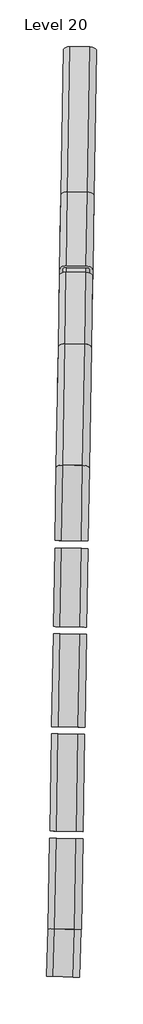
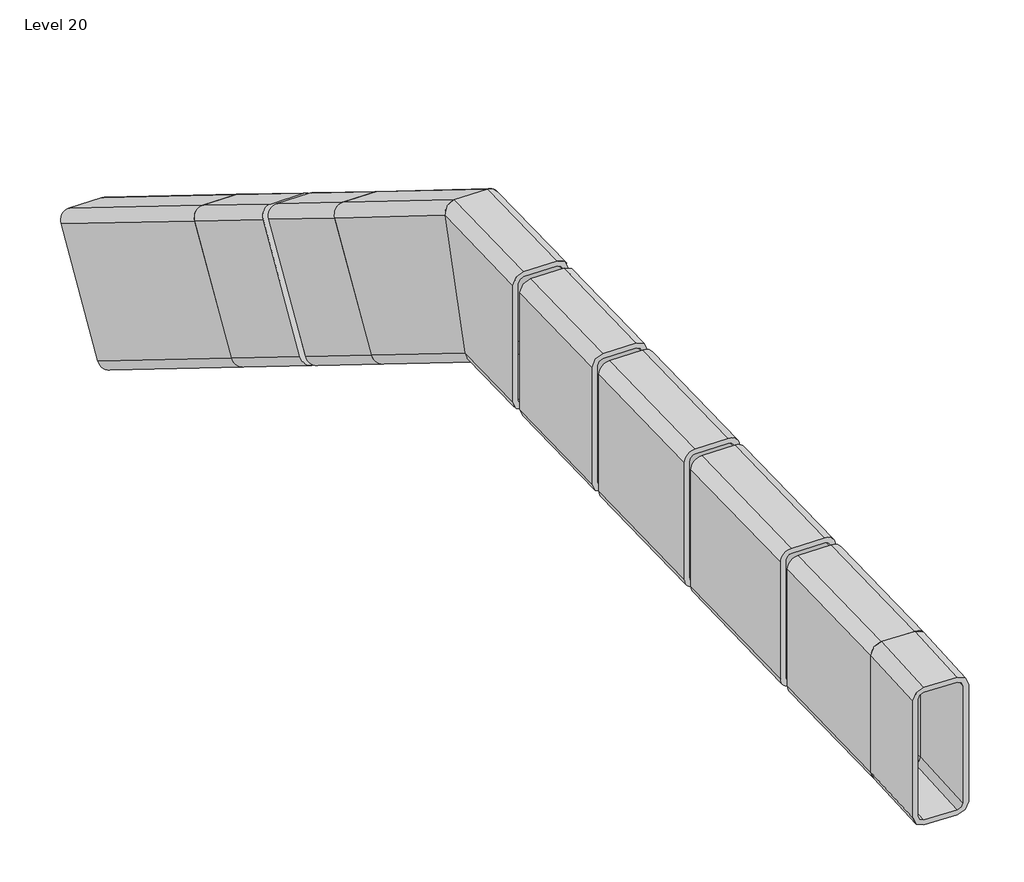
# One storey: 10 beams.
"""IFC4 building model written with IfcOpenShell, lengths in millimetres."""

from ifc_helpers import new_model, si_unit, point, frame, frame_2d, origin, place, context, project, spatial, polyline, circle_curve, ellipse_curve, trimmed, segment, composite_curve, outline, extrude, transform, mapped, element, save
from ifc_brep_helpers import plane_surface, cylinder_surface, revolved_surface, advanced_brep
from components import rectangular_and_square_hollow_sections_90f7eeb5, rectangular_and_square_hollow_sections_e5729320, rectangular_and_square_hollow_sections_3e7aac3e, rectangular_and_square_hollow_sections_6862c1c7, rectangular_and_square_hollow_sections_a73800cf

model = new_model("IFC4")

# Units and contexts
model_context = context("Model", 3, world=origin())
ifc_project = project(units=[si_unit("LENGTHUNIT", "METRE", prefix="MILLI")], contexts=[model_context])

# Site, building, storey
site = spatial("IfcSite", under=ifc_project)
building = spatial("IfcBuilding", under=site)
storey = spatial("IfcBuildingStorey", under=building, Name="Level 20", Elevation=-3564.4344134)

# Beams
placement = place(None, origin())
element("IfcBeam", 1, ObjectType="Rectangular and Square Hollow Sections : TREC160x60x6", at=placement, inside=storey, context=model_context, shape_type="AdvancedBrep", body=[
    advanced_brep(
    [(-698.5878607, -321.6863551, -3496.434413), (-710.5860506, -321.4779355, -3484.434413), (-746.5806203, -320.8526768, -3484.434413), (-758.5788102, -320.6442572, -3496.434413), (-758.5788102, -320.6442572, -3632.434413), (-746.5806203, -320.8526768, -3644.434413), (-710.5860506, -321.4779355, -3644.434413), (-698.5878607, -321.6863551, -3632.434413), (-746.5806203, -320.8526768, -3490.434413), (-710.5860506, -321.4779355, -3490.434413), (-704.5869556, -321.5821453, -3496.434413), (-704.5869556, -321.5821453, -3632.434413), (-710.5860506, -321.4779355, -3638.434413), (-746.5806203, -320.8526768, -3638.434413), (-752.5797153, -320.748467, -3632.434413), (-752.5797153, -320.748467, -3496.434413), (-696.2776033, -188.6906617, -3496.434413), (-708.2158727, -185.032769, -3484.434413), (-744.2104046, -184.4053306, -3484.434413), (-756.2684898, -187.6449309, -3496.434413), (-756.9474459, -226.7307245, -3632.434413), (-745.0091765, -230.3886172, -3644.434413), (-709.0146446, -231.0160557, -3644.434413), (-696.9565594, -227.7764553, -3632.434413), (-744.2403585, -186.1297038, -3490.434413), (-708.2458266, -186.7571423, -3490.434413), (-702.2766919, -188.5860886, -3496.434413), (-702.9556481, -227.6718823, -3632.434413), (-708.9846907, -229.2916824, -3638.434413), (-744.9792226, -228.664244, -3638.434413), (-750.9483573, -226.8352976, -3632.434413), (-750.2694011, -187.749504, -3496.434413)],
    [
        (0, 1, circle_curve(frame((-710.5860506, -321.4779355, -3496.434413), z_axis=(-0.017368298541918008, -0.9998491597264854, 0.0), x_axis=(-0.9998491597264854, 0.017368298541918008, 0.0)), 12.0)),
        (1, 2),
        (2, 3, circle_curve(frame((-746.5806203, -320.8526768, -3496.434413), z_axis=(-0.017368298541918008, -0.9998491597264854, 0.0), x_axis=(-0.9998491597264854, 0.017368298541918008, 0.0)), 12.0)),
        (3, 4),
        (4, 5, circle_curve(frame((-746.5806203, -320.8526768, -3632.434413), z_axis=(-0.017368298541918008, -0.9998491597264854, 0.0), x_axis=(-0.9998491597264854, 0.017368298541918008, 0.0)), 12.0)),
        (5, 6),
        (6, 7, circle_curve(frame((-710.5860506, -321.4779355, -3632.434413), z_axis=(-0.017368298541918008, -0.9998491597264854, 0.0), x_axis=(-0.9998491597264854, 0.017368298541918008, 0.0)), 12.0)),
        (7, 0),
        (8, 9),
        (9, 10, circle_curve(frame((-710.5860506, -321.4779355, -3496.434413), z_axis=(0.017368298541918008, 0.9998491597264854, 0.0), x_axis=(-0.9998491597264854, 0.017368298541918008, 0.0)), 6.0)),
        (10, 11),
        (11, 12, circle_curve(frame((-710.5860506, -321.4779355, -3632.434413), z_axis=(0.017368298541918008, 0.9998491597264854, 0.0), x_axis=(-0.9998491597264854, 0.017368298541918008, 0.0)), 6.0)),
        (12, 13),
        (13, 14, circle_curve(frame((-746.5806203, -320.8526768, -3632.434413), z_axis=(0.017368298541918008, 0.9998491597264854, 0.0), x_axis=(-0.9998491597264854, 0.017368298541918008, 0.0)), 6.0)),
        (14, 15),
        (15, 8, circle_curve(frame((-746.5806203, -320.8526768, -3496.434413), z_axis=(0.017368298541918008, 0.9998491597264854, 0.0), x_axis=(-0.9998491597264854, 0.017368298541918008, 0.0)), 6.0)),
        (0, 16),
        (16, 17, ellipse_curve(frame((-708.2757806, -188.4815155, -3496.434413), z_axis=(-0.016750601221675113, -0.9609389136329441, 0.27625318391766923), x_axis=(-0.00459559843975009, -0.27621503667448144, -0.9610848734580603)), 12.4858897, 12.0)),
        (17, 1),
        (17, 18),
        (18, 2),
        (18, 19, ellipse_curve(frame((-744.2703125, -187.8540771, -3496.434413), z_axis=(-0.016750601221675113, -0.9609389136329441, 0.27625318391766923), x_axis=(-0.00459559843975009, -0.27621503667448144, -0.9610848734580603)), 12.4858897, 12.0)),
        (19, 3),
        (19, 20),
        (20, 4),
        (20, 21, ellipse_curve(frame((-744.9492686, -226.9398707, -3632.434413), z_axis=(-0.016750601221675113, -0.9609389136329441, 0.27625318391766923), x_axis=(-0.00459559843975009, -0.27621503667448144, -0.9610848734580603)), 12.4858897, 12.0)),
        (21, 5),
        (21, 22),
        (22, 6),
        (22, 23, ellipse_curve(frame((-708.9547367, -227.5673092, -3632.434413), z_axis=(-0.016750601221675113, -0.9609389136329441, 0.27625318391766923), x_axis=(-0.00459559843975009, -0.27621503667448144, -0.9610848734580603)), 12.4858897, 12.0)),
        (23, 7),
        (23, 16),
        (8, 24),
        (24, 25),
        (25, 9),
        (25, 26, ellipse_curve(frame((-708.2757806, -188.4815155, -3496.434413), z_axis=(0.016750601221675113, 0.9609389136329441, -0.27625318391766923), x_axis=(0.00459559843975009, 0.27621503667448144, 0.9610848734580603)), 6.2429449, 6.0)),
        (26, 10),
        (26, 27),
        (27, 11),
        (27, 28, ellipse_curve(frame((-708.9547367, -227.5673092, -3632.434413), z_axis=(0.016750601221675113, 0.9609389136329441, -0.27625318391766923), x_axis=(0.00459559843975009, 0.27621503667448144, 0.9610848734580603)), 6.2429449, 6.0)),
        (28, 12),
        (28, 29),
        (29, 13),
        (29, 30, ellipse_curve(frame((-744.9492686, -226.9398707, -3632.434413), z_axis=(0.016750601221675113, 0.9609389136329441, -0.27625318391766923), x_axis=(0.00459559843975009, 0.27621503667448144, 0.9610848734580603)), 6.2429449, 6.0)),
        (30, 14),
        (30, 31),
        (31, 15),
        (31, 24, ellipse_curve(frame((-744.2703125, -187.8540771, -3496.434413), z_axis=(0.016750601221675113, 0.9609389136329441, -0.27625318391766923), x_axis=(0.00459559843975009, 0.27621503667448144, 0.9610848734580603)), 6.2429449, 6.0)),
    ],
    [
        plane_surface(frame((-728.5833355, -321.1653061, -3564.434413), z_axis=(-0.017368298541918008, -0.9998491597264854, 0.0), x_axis=(0.0, 0.0, 1.0))),
        cylinder_surface(frame((-710.5860506, -321.4779355, -3496.434413), z_axis=(-0.017368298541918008, -0.9998491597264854, 0.0), x_axis=(-0.9998491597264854, 0.017368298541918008, 0.0)), 12.0),
        plane_surface(frame((-710.5860506, -321.4779355, -3484.434413), z_axis=(0.0, 0.0, 1.0), x_axis=(0.017368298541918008, 0.9998491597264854, 0.0))),
        cylinder_surface(frame((-746.5806203, -320.8526768, -3496.434413), z_axis=(-0.017368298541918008, -0.9998491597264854, 0.0), x_axis=(-0.9998491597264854, 0.017368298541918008, 0.0)), 12.0),
        plane_surface(frame((-758.5788102, -320.6442572, -3496.434413), z_axis=(-0.9998491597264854, 0.017368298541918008, 0.0), x_axis=(0.017368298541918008, 0.9998491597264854, 0.0))),
        cylinder_surface(frame((-746.5806203, -320.8526768, -3632.434413), z_axis=(-0.017368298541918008, -0.9998491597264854, 0.0), x_axis=(-0.9998491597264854, 0.017368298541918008, 0.0)), 12.0),
        plane_surface(frame((-746.5806203, -320.8526768, -3644.434413), z_axis=(0.0, 0.0, -1.0), x_axis=(0.017368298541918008, 0.9998491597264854, 0.0))),
        cylinder_surface(frame((-710.5860506, -321.4779355, -3632.434413), z_axis=(-0.017368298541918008, -0.9998491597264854, 0.0), x_axis=(-0.9998491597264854, 0.017368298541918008, 0.0)), 12.0),
        plane_surface(frame((-698.5878607, -321.6863551, -3632.434413), z_axis=(0.9998491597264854, -0.017368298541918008, 0.0), x_axis=(0.017368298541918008, 0.9998491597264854, 0.0))),
        plane_surface(frame((-746.5806203, -320.8526768, -3490.434413), z_axis=(0.0, 0.0, -1.0), x_axis=(0.017368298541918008, 0.9998491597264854, 0.0))),
        revolved_surface(polyline([(-714.2449216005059, -186.65293240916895, -3496.434413), (-716.5851455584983, -321.3737257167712, -3496.434413)]), (-710.5860506, -321.4779355, -3496.434413), (0.017368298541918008, 0.9998491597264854, 0.0)),
        plane_surface(frame((-704.5869556, -321.5821453, -3496.434413), z_axis=(-0.9998491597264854, 0.017368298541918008, 0.0), x_axis=(0.017368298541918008, 0.9998491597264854, 0.0))),
        revolved_surface(polyline([(-714.923877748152, -225.73872610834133, -3632.434413), (-716.5851455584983, -321.3737257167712, -3632.434413)]), (-710.5860506, -321.4779355, -3632.434413), (0.017368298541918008, 0.9998491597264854, 0.0)),
        plane_surface(frame((-710.5860506, -321.4779355, -3638.434413), z_axis=(0.0, 0.0, 1.0), x_axis=(0.017368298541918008, 0.9998491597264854, 0.0))),
        revolved_surface(polyline([(-750.9184095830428, -225.1112876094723, -3632.434413), (-752.5797152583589, -320.7484670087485, -3632.434413)]), (-746.5806203, -320.8526768, -3632.434413), (0.017368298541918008, 0.9998491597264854, 0.0)),
        plane_surface(frame((-752.5797153, -320.748467, -3632.434413), z_axis=(0.9998491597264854, -0.017368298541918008, 0.0), x_axis=(0.017368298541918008, 0.9998491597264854, 0.0))),
        revolved_surface(polyline([(-750.2394534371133, -186.02549400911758, -3496.434413), (-752.5797152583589, -320.7484670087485, -3496.434413)]), (-746.5806203, -320.8526768, -3496.434413), (0.017368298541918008, 0.9998491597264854, 0.0)),
        plane_surface(frame((-726.2299601, -184.7169406, -3484.4280962), z_axis=(0.016750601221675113, 0.9609389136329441, -0.27625318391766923), x_axis=(0.9998596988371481, -0.01609856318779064, 0.004628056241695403))),
    ],
    [
        (0, [[1, 2, 3, 4, 5, 6, 7, 8], [9, 10, 11, 12, 13, 14, 15, 16]]),
        (1, [[-1, 17, 18, 19]]),
        (2, [[-2, -19, 20, 21]]),
        (3, [[-3, -21, 22, 23]]),
        (4, [[-4, -23, 24, 25]]),
        (5, [[-5, -25, 26, 27]]),
        (6, [[-6, -27, 28, 29]]),
        (7, [[-7, -29, 30, 31]]),
        (8, [[-8, -31, 32, -17]]),
        (9, [[-9, 33, 34, 35]]),
        (10, [[-10, -35, 36, 37]]),
        (11, [[-11, -37, 38, 39]]),
        (12, [[-12, -39, 40, 41]]),
        (13, [[-13, -41, 42, 43]]),
        (14, [[-14, -43, 44, 45]]),
        (15, [[-15, -45, 46, 47]]),
        (16, [[-16, -47, 48, -33]]),
        (17, [[-32, -30, -28, -26, -24, -22, -20, -18], [-48, -46, -44, -42, -40, -38, -36, -34]]),
    ],
),
])
element("IfcBeam", 2, ObjectType="Rectangular and Square Hollow Sections : TREC160x60x6", at=placement, inside=storey, context=model_context, shape_type="AdvancedBrep", body=[
    advanced_brep(
    [(-708.2128468, -185.0333451, -3484.4362333), (-696.275034, -188.6913116, -3496.436518), (-692.4823718, 27.9955102, -3632.2297305), (-704.3690299, 34.5761012, -3622.0609951), (-744.2073718, -184.4055141, -3484.4348676), (-740.3635168, 35.2061115, -3622.0609951), (-756.2659091, -187.6449266, -3496.4342417), (-752.4731833, 29.0455274, -3632.2297305), (-756.9500151, -226.7300746, -3632.432308), (-753.7368974, -43.1544645, -3747.4753995), (-745.0122024, -230.3880411, -3644.4325927), (-741.8502392, -49.7350554, -3757.6441349), (-709.0176774, -231.0158721, -3644.4339584), (-705.8557523, -50.3650657, -3757.6441349), (-696.9591401, -227.7764596, -3632.4345843), (-693.7460859, -44.2044816, -3747.4753995), (-708.2430279, -186.7576899, -3490.436148), (-744.2375529, -186.1298589, -3490.4347823), (-740.4192689, 32.0208177, -3627.1453628), (-704.424782, 31.3908074, -3627.1453628), (-702.2741215, -188.5866731, -3496.4362903), (-698.481453, 28.1005119, -3632.2297305), (-702.9582276, -227.6718211, -3632.4343566), (-699.745167, -44.0994799, -3747.4753995), (-708.9874962, -229.2915274, -3638.4340437), (-705.8000003, -47.179772, -3752.5597672), (-744.9820213, -228.6636964, -3638.432678), (-741.7944872, -46.5497617, -3752.5597672), (-750.9509276, -226.8347131, -3632.4325357), (-747.7378162, -43.2594662, -3747.4753995), (-750.2668216, -187.7495651, -3496.4344694), (-746.4741022, 28.9405257, -3632.2297305)],
    [
        (0, 1, ellipse_curve(frame((-708.273209, -188.4820346, -3496.4360627), z_axis=(0.016750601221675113, 0.9609389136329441, -0.27625318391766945), x_axis=(0.004595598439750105, 0.27621503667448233, 0.9610848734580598)), 12.4857122, 12.0)),
        (1, 2),
        (2, 3, circle_curve(frame((-704.4805341, 28.2055137, -3632.2297305), z_axis=(-0.014829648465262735, -0.8472648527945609, 0.5309636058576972), x_axis=(-0.999846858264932, 0.017500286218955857, 0.0)), 12.0)),
        (3, 0),
        (4, 0),
        (3, 5),
        (5, 4),
        (6, 4, ellipse_curve(frame((-744.2677341, -187.8542036, -3496.434697), z_axis=(0.016750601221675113, 0.9609389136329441, -0.27625318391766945), x_axis=(0.004595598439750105, 0.27621503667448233, 0.9610848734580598)), 12.4857122, 12.0)),
        (5, 7, circle_curve(frame((-740.475021, 28.835524, -3632.2297305), z_axis=(-0.014829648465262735, -0.8472648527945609, 0.5309636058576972), x_axis=(-0.999846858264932, 0.017500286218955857, 0.0)), 12.0)),
        (7, 6),
        (8, 6),
        (7, 9),
        (9, 8),
        (10, 8, ellipse_curve(frame((-744.9518401, -226.9393516, -3632.4327633), z_axis=(0.016750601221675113, 0.9609389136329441, -0.27625318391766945), x_axis=(0.004595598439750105, 0.27621503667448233, 0.9610848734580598)), 12.4857122, 12.0)),
        (9, 11, circle_curve(frame((-741.7387351, -43.3644679, -3747.4753995), z_axis=(-0.014829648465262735, -0.8472648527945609, 0.5309636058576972), x_axis=(-0.999846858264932, 0.017500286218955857, 0.0)), 12.0)),
        (11, 10),
        (12, 10),
        (11, 13),
        (13, 12),
        (14, 12, ellipse_curve(frame((-708.9573151, -227.5671826, -3632.434129), z_axis=(0.016750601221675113, 0.9609389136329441, -0.27625318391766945), x_axis=(0.004595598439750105, 0.27621503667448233, 0.9610848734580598)), 12.4857122, 12.0)),
        (13, 15, circle_curve(frame((-705.7442482, -43.9944782, -3747.4753995), z_axis=(-0.014829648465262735, -0.8472648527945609, 0.5309636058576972), x_axis=(-0.999846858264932, 0.017500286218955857, 0.0)), 12.0)),
        (15, 14),
        (1, 14),
        (15, 2),
        (16, 17),
        (17, 18),
        (18, 19),
        (19, 16),
        (20, 16, ellipse_curve(frame((-708.273209, -188.4820346, -3496.4360627), z_axis=(-0.016750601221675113, -0.9609389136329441, 0.27625318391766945), x_axis=(-0.004595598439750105, -0.27621503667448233, -0.9610848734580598)), 6.2428561, 6.0)),
        (19, 21, circle_curve(frame((-704.4805341, 28.2055137, -3632.2297305), z_axis=(0.014829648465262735, 0.8472648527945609, -0.5309636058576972), x_axis=(-0.999846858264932, 0.017500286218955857, 0.0)), 6.0)),
        (21, 20),
        (22, 20),
        (21, 23),
        (23, 22),
        (24, 22, ellipse_curve(frame((-708.9573151, -227.5671826, -3632.434129), z_axis=(-0.016750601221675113, -0.9609389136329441, 0.27625318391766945), x_axis=(-0.004595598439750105, -0.27621503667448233, -0.9610848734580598)), 6.2428561, 6.0)),
        (23, 25, circle_curve(frame((-705.7442482, -43.9944782, -3747.4753995), z_axis=(0.014829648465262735, 0.8472648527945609, -0.5309636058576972), x_axis=(-0.999846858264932, 0.017500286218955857, 0.0)), 6.0)),
        (25, 24),
        (26, 24),
        (25, 27),
        (27, 26),
        (28, 26, ellipse_curve(frame((-744.9518401, -226.9393516, -3632.4327633), z_axis=(-0.016750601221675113, -0.9609389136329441, 0.27625318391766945), x_axis=(-0.004595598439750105, -0.27621503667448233, -0.9610848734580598)), 6.2428561, 6.0)),
        (27, 29, circle_curve(frame((-741.7387351, -43.3644679, -3747.4753995), z_axis=(0.014829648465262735, 0.8472648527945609, -0.5309636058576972), x_axis=(-0.999846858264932, 0.017500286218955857, 0.0)), 6.0)),
        (29, 28),
        (30, 28),
        (29, 31),
        (31, 30),
        (17, 30, ellipse_curve(frame((-744.2677341, -187.8542036, -3496.434697), z_axis=(-0.016750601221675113, -0.9609389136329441, 0.27625318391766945), x_axis=(-0.004595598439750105, -0.27621503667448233, -0.9610848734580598)), 6.2428561, 6.0)),
        (31, 18, circle_curve(frame((-740.475021, 28.835524, -3632.2297305), z_axis=(0.014829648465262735, 0.8472648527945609, -0.5309636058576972), x_axis=(-0.999846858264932, 0.017500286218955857, 0.0)), 6.0)),
    ],
    [
        cylinder_surface(frame((-707.9818776, -171.837347, -3506.8669491), z_axis=(-0.014829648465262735, -0.8472648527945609, 0.5309636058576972), x_axis=(-0.999846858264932, 0.017500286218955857, 0.0)), 12.0),
        plane_surface(frame((-707.8703735, -165.4667594, -3496.6982136), z_axis=(0.009292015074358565, 0.530882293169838, 0.8473946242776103), x_axis=(0.014829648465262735, 0.8472648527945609, -0.5309636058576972))),
        cylinder_surface(frame((-743.9763645, -171.2073367, -3506.8669491), z_axis=(-0.014829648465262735, -0.8472648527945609, 0.5309636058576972), x_axis=(-0.999846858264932, 0.017500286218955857, 0.0)), 12.0),
        plane_surface(frame((-755.9745268, -170.9973332, -3506.8669491), z_axis=(-0.999846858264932, 0.017500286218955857, 0.0), x_axis=(0.014829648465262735, 0.8472648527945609, -0.5309636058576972))),
        cylinder_surface(frame((-745.2400786, -243.4073285, -3622.112618), z_axis=(-0.014829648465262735, -0.8472648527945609, 0.5309636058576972), x_axis=(-0.999846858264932, 0.017500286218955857, 0.0)), 12.0),
        plane_surface(frame((-745.3515828, -249.7779161, -3632.2813535), z_axis=(-0.009292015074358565, -0.530882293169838, -0.8473946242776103), x_axis=(0.014829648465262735, 0.8472648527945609, -0.5309636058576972))),
        cylinder_surface(frame((-709.2455917, -244.0373388, -3622.112618), z_axis=(-0.014829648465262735, -0.8472648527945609, 0.5309636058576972), x_axis=(-0.999846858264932, 0.017500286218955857, 0.0)), 12.0),
        plane_surface(frame((-697.2474294, -244.2473423, -3622.112618), z_axis=(0.999846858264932, -0.017500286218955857, 0.0), x_axis=(0.014829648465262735, 0.8472648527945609, -0.5309636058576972))),
        plane_surface(frame((-743.9206124, -168.0220429, -3501.7825813), z_axis=(-0.009292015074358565, -0.530882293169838, -0.8473946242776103), x_axis=(0.014829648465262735, 0.8472648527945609, -0.5309636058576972))),
        revolved_surface(polyline([(-710.4796152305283, 28.31051535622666, -3632.2297305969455), (-714.2978611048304, -189.83798197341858, -3495.5205157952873)]), (-707.9818776, -171.837347, -3506.8669491), (0.014829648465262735, 0.8472648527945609, -0.5309636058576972)),
        plane_surface(frame((-701.9827965, -171.9423487, -3506.8669491), z_axis=(-0.999846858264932, 0.017500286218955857, 0.0), x_axis=(0.014829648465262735, 0.8472648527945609, -0.5309636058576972))),
        revolved_surface(polyline([(-711.7433293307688, -43.88947645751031, -3747.4753994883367), (-714.9819671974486, -228.92312993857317, -3631.5185820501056)]), (-709.2455917, -244.0373388, -3622.112618), (0.014829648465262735, 0.8472648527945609, -0.5309636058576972)),
        plane_surface(frame((-709.3013438, -247.2226326, -3627.1969857), z_axis=(0.009292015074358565, 0.530882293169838, 0.8473946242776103), x_axis=(0.014829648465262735, 0.8472648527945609, -0.5309636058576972))),
        revolved_surface(polyline([(-747.7378162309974, -43.25946617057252, -3747.475399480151), (-750.976492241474, -228.29529892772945, -3631.517216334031)]), (-745.2400786, -243.4073285, -3622.112618), (0.014829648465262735, 0.8472648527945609, -0.5309636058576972)),
        plane_surface(frame((-751.2391597, -243.3023268, -3622.112618), z_axis=(0.999846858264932, -0.017500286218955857, 0.0), x_axis=(0.014829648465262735, 0.8472648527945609, -0.5309636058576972))),
        revolved_surface(polyline([(-746.4741021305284, 28.94052565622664, -3632.2297305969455), (-750.2923861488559, -189.21015096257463, -3495.5191500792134)]), (-743.9763645, -171.2073367, -3506.8669491), (0.014829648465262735, 0.8472648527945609, -0.5309636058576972)),
        plane_surface(frame((-726.995089, -230.7044456, -3644.4407298), z_axis=(-0.016750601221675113, -0.9609389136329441, 0.27625318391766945), x_axis=(0.9998596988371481, -0.01609856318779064, 0.004628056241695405))),
        plane_surface(frame((-723.1096346, -7.5794771, -3689.852565), z_axis=(0.014829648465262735, 0.847264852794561, -0.5309636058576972), x_axis=(0.9998900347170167, -0.012566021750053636, 0.007874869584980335))),
    ],
    [
        (0, [[1, 2, 3, 4]]),
        (1, [[5, -4, 6, 7]]),
        (2, [[8, -7, 9, 10]]),
        (3, [[11, -10, 12, 13]]),
        (4, [[14, -13, 15, 16]]),
        (5, [[17, -16, 18, 19]]),
        (6, [[20, -19, 21, 22]]),
        (7, [[23, -22, 24, -2]]),
        (8, [[25, 26, 27, 28]]),
        (9, [[29, -28, 30, 31]]),
        (10, [[32, -31, 33, 34]]),
        (11, [[35, -34, 36, 37]]),
        (12, [[38, -37, 39, 40]]),
        (13, [[41, -40, 42, 43]]),
        (14, [[44, -43, 45, 46]]),
        (15, [[47, -46, 48, -26]]),
        (16, [[-1, -5, -8, -11, -14, -17, -20, -23], [-25, -29, -32, -35, -38, -41, -44, -47]]),
        (17, [[-24, -21, -18, -15, -12, -9, -6, -3], [-48, -45, -42, -39, -36, -33, -30, -27]]),
    ],
),
])
element("IfcBeam", 3, ObjectType="Rectangular and Square Hollow Sections : TREC160x60x6", at=placement, inside=storey, context=model_context, shape_type="SweptSolid", body=[
    extrude(outline(composite_curve([segment(polyline([(30.6276744, 67.7196098), (29.369759, -68.2745725)]), True, "CONTINUOUS"), segment(trimmed(circle_curve(frame_2d((17.3702723, -68.16358)), 12.0), [point((29.369759, -68.2745725))], [point((17.2592798, -80.1630667))], False, "CARTESIAN"), True, "CONTINUOUS"), segment(polyline([(17.2592798, -80.1630667), (-18.7391803, -79.8300891)]), True, "CONTINUOUS"), segment(trimmed(circle_curve(frame_2d((-18.6281878, -67.8306024)), 12.0), [point((-18.7391803, -79.8300891))], [point((-30.6276744, -67.7196098))], False, "CARTESIAN"), True, "CONTINUOUS"), segment(polyline([(-30.6276744, -67.7196098), (-29.369759, 68.2745725)]), True, "CONTINUOUS"), segment(trimmed(circle_curve(frame_2d((-17.3702722, 68.16358)), 12.0), [point((-29.369759, 68.2745725))], [point((-17.2592798, 80.1630667))], False, "CARTESIAN"), True, "CONTINUOUS"), segment(polyline([(-17.2592798, 80.1630667), (18.7391804, 79.8300891)]), True, "CONTINUOUS"), segment(trimmed(circle_curve(frame_2d((18.6281878, 67.8306024)), 12.0), [point((18.7391804, 79.8300891))], [point((30.6276744, 67.7196098))], False, "CARTESIAN"), True, "CONTINUOUS")], self_intersect=False), holes=[composite_curve([segment(trimmed(circle_curve(frame_2d((-17.3702722, 68.16358)), 6.0), [point((-17.314776, 74.1633233))], [point((-23.3700156, 68.2190763))], True, "CARTESIAN"), True, "CONTINUOUS"), segment(polyline([(-23.3700156, 68.2190763), (-24.6279311, -67.7751061)]), True, "CONTINUOUS"), segment(trimmed(circle_curve(frame_2d((-18.6281878, -67.8306024)), 6.0), [point((-24.6279311, -67.7751061))], [point((-18.6836841, -73.8303457))], True, "CARTESIAN"), True, "CONTINUOUS"), segment(polyline([(-18.6836841, -73.8303457), (17.314776, -74.1633233)]), True, "CONTINUOUS"), segment(trimmed(circle_curve(frame_2d((17.3702723, -68.16358)), 6.0), [point((17.314776, -74.1633233))], [point((23.3700156, -68.2190763))], True, "CARTESIAN"), True, "CONTINUOUS"), segment(polyline([(23.3700156, -68.2190763), (24.6279311, 67.7751061)]), True, "CONTINUOUS"), segment(trimmed(circle_curve(frame_2d((18.6281878, 67.8306024)), 6.0), [point((24.6279311, 67.7751061))], [point((18.6836841, 73.8303457))], True, "CARTESIAN"), True, "CONTINUOUS"), segment(polyline([(18.6836841, 73.8303457), (-17.314776, 74.1633233)]), True, "CONTINUOUS")], self_intersect=False)]), frame((-718.3085986, 267.4717299, -3861.749815), z_axis=(-0.014800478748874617, -0.84791893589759, 0.5299192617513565), x_axis=(0.9998904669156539, -0.0125509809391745, 0.00784391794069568)), (0.0, 0.0, 1.0), 158.1049411),
])
element("IfcBeam", 4, ObjectType="Rectangular and Square Hollow Sections : TREC160x60x6", at=placement, inside=storey, context=model_context, shape_type="SweptSolid", body=[
    extrude(outline(composite_curve([segment(polyline([(30.6276745, 67.7196098), (29.3697589, -68.2745726)]), True, "CONTINUOUS"), segment(trimmed(circle_curve(frame_2d((17.3702722, -68.1635801)), 12.0), [point((29.3697589, -68.2745726))], [point((17.2592797, -80.1630667))], False, "CARTESIAN"), True, "CONTINUOUS"), segment(polyline([(17.2592797, -80.1630667), (-18.7391805, -79.830089)]), True, "CONTINUOUS"), segment(trimmed(circle_curve(frame_2d((-18.6281878, -67.8306024)), 12.0), [point((-18.7391805, -79.830089))], [point((-30.6276745, -67.7196098))], False, "CARTESIAN"), True, "CONTINUOUS"), segment(polyline([(-30.6276745, -67.7196098), (-29.3697589, 68.2745726)]), True, "CONTINUOUS"), segment(trimmed(circle_curve(frame_2d((-17.3702722, 68.16358)), 12.0), [point((-29.3697589, 68.2745726))], [point((-17.2592797, 80.1630667))], False, "CARTESIAN"), True, "CONTINUOUS"), segment(polyline([(-17.2592797, 80.1630667), (18.7391805, 79.830089)]), True, "CONTINUOUS"), segment(trimmed(circle_curve(frame_2d((18.6281879, 67.8306024)), 12.0), [point((18.7391805, 79.830089))], [point((30.6276745, 67.7196098))], False, "CARTESIAN"), True, "CONTINUOUS")], self_intersect=False), holes=[composite_curve([segment(trimmed(circle_curve(frame_2d((-17.3702722, 68.16358)), 6.0), [point((-17.3147759, 74.1633234))], [point((-23.3700155, 68.2190763))], True, "CARTESIAN"), True, "CONTINUOUS"), segment(polyline([(-23.3700155, 68.2190763), (-24.6279312, -67.7751061)]), True, "CONTINUOUS"), segment(trimmed(circle_curve(frame_2d((-18.6281878, -67.8306024)), 6.0), [point((-24.6279312, -67.7751061))], [point((-18.6836841, -73.8303457))], True, "CARTESIAN"), True, "CONTINUOUS"), segment(polyline([(-18.6836841, -73.8303457), (17.3147759, -74.1633234)]), True, "CONTINUOUS"), segment(trimmed(circle_curve(frame_2d((17.3702722, -68.1635801)), 6.0), [point((17.3147759, -74.1633234))], [point((23.3700155, -68.2190763))], True, "CARTESIAN"), True, "CONTINUOUS"), segment(polyline([(23.3700155, -68.2190763), (24.6279312, 67.7751061)]), True, "CONTINUOUS"), segment(trimmed(circle_curve(frame_2d((18.6281879, 67.8306024)), 6.0), [point((24.6279312, 67.7751061))], [point((18.6836842, 73.8303457))], True, "CARTESIAN"), True, "CONTINUOUS"), segment(polyline([(18.6836842, 73.8303457), (-17.3147759, 74.1633234)]), True, "CONTINUOUS")], self_intersect=False)]), frame((-713.7192296, 530.3964909, -4026.068467), z_axis=(-0.014800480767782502, -0.8479189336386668, 0.5299192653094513), x_axis=(0.9998904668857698, -0.012550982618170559, 0.007843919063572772)), (0.0, 0.0, 1.0), 310.0824272),
])
element("IfcBeam", 5, ObjectType="Rectangular and Square Hollow Sections : TREC160x60x6", at=placement, inside=storey, context=model_context, shape_type="SweptSolid", body=[
    extrude(outline(composite_curve([segment(polyline([(68.0, -30.0), (-68.0, -30.0)]), True, "CONTINUOUS"), segment(trimmed(circle_curve(frame_2d((-68.0, -18.0)), 12.0), [point((-68.0, -30.0))], [point((-79.9999999, -18.0000001))], False, "CARTESIAN"), True, "CONTINUOUS"), segment(polyline([(-79.9999999, -18.0000001), (-80.0, 18.0)]), True, "CONTINUOUS"), segment(trimmed(circle_curve(frame_2d((-68.0, 18.0)), 12.0), [point((-80.0, 18.0))], [point((-68.0, 29.9999999))], False, "CARTESIAN"), True, "CONTINUOUS"), segment(polyline([(-68.0, 29.9999999), (68.0000001, 29.9999999)]), True, "CONTINUOUS"), segment(trimmed(circle_curve(frame_2d((68.0, 18.0)), 12.0), [point((68.0000001, 29.9999999))], [point((80.0, 18.0))], False, "CARTESIAN"), True, "CONTINUOUS"), segment(polyline([(80.0, 18.0), (80.0, -18.0)]), True, "CONTINUOUS"), segment(trimmed(circle_curve(frame_2d((68.0, -18.0)), 12.0), [point((80.0, -18.0))], [point((68.0, -30.0))], False, "CARTESIAN"), True, "CONTINUOUS")], self_intersect=False), holes=[composite_curve([segment(trimmed(circle_curve(frame_2d((68.0, 18.0)), 6.0), [point((74.0000001, 18.0))], [point((68.0, 24.0))], True, "CARTESIAN"), True, "CONTINUOUS"), segment(polyline([(68.0, 24.0), (-68.0, 24.0)]), True, "CONTINUOUS"), segment(trimmed(circle_curve(frame_2d((-68.0, 18.0)), 6.0), [point((-68.0, 24.0))], [point((-73.9999999, 18.0))], True, "CARTESIAN"), True, "CONTINUOUS"), segment(polyline([(-73.9999999, 18.0), (-73.9999999, -18.0)]), True, "CONTINUOUS"), segment(trimmed(circle_curve(frame_2d((-68.0, -18.0)), 6.0), [point((-73.9999999, -18.0))], [point((-68.0, -24.0))], True, "CARTESIAN"), True, "CONTINUOUS"), segment(polyline([(-68.0, -24.0), (68.0, -24.0)]), True, "CONTINUOUS"), segment(trimmed(circle_curve(frame_2d((68.0, -18.0)), 6.0), [point((68.0, -24.0))], [point((74.0, -18.0))], True, "CARTESIAN"), True, "CONTINUOUS"), segment(polyline([(74.0, -18.0), (74.0000001, 18.0)]), True, "CONTINUOUS")], self_intersect=False)]), frame((-720.8438742, 122.2258742, -3770.9763066), z_axis=(-0.014800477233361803, -0.8479189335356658, 0.5299192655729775), x_axis=(0.009248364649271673, 0.5298385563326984, 0.8480480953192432)), (0.0, 0.0, 1.0), 153.086983),
])
rectangular_and_square_hollow_sections_shape = rectangular_and_square_hollow_sections_90f7eeb5(model_context)
element("IfcBeam", 6, ObjectType="Rectangular and Square Hollow Sections : TREC160x60x6", at=placement, inside=storey, context=model_context, shape_type="MappedRepresentation", body=[
    mapped(rectangular_and_square_hollow_sections_shape, transform((-742.5073271, -1067.3400011, -3564.434413), x_axis=(-0.03831969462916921, -0.9992655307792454, 0.0), y_axis=(0.9992655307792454, -0.03831969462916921, 0.0), z_axis=(0.0, 0.0, 1.0))),
])
rectangular_and_square_hollow_sections_2_shape = rectangular_and_square_hollow_sections_e5729320(model_context)
element("IfcBeam", 7, ObjectType="Rectangular and Square Hollow Sections : TREC160x60x6", at=placement, inside=storey, context=model_context, shape_type="MappedRepresentation", body=[
    mapped(rectangular_and_square_hollow_sections_2_shape, transform((-736.3367746, -765.3618271, -3564.434413), x_axis=(-0.01745240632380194, -0.9998476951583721, 0.0), y_axis=(0.9998476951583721, -0.01745240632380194, 0.0), z_axis=(0.0, 0.0, 1.0))),
])
rectangular_and_square_hollow_sections_3_shape = rectangular_and_square_hollow_sections_3e7aac3e(model_context)
element("IfcBeam", 8, ObjectType="Rectangular and Square Hollow Sections : TREC160x60x6", at=placement, inside=storey, context=model_context, shape_type="MappedRepresentation", body=[
    mapped(rectangular_and_square_hollow_sections_3_shape, transform((-739.4220191, -942.1153416, -3564.434413), x_axis=(-0.01745241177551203, -0.999847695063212, 0.0), y_axis=(0.999847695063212, -0.01745241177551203, 0.0), z_axis=(0.0, 0.0, 1.0))),
])
rectangular_and_square_hollow_sections_4_shape = rectangular_and_square_hollow_sections_6862c1c7(model_context)
element("IfcBeam", 9, ObjectType="Rectangular and Square Hollow Sections : TREC160x60x6", at=placement, inside=storey, context=model_context, shape_type="MappedRepresentation", body=[
    mapped(rectangular_and_square_hollow_sections_4_shape, transform((-729.9486946, -399.3889496, -3564.434413), x_axis=(-0.017452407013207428, -0.9998476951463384, 0.0), y_axis=(0.9998476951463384, -0.017452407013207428, 0.0), z_axis=(0.0, 0.0, 1.0))),
])
rectangular_and_square_hollow_sections_5_shape = rectangular_and_square_hollow_sections_a73800cf(model_context)
element("IfcBeam", 10, ObjectType="Rectangular and Square Hollow Sections : TREC160x60x6", at=placement, inside=storey, context=model_context, shape_type="MappedRepresentation", body=[
    mapped(rectangular_and_square_hollow_sections_5_shape, transform((-732.9958491, -573.9603221, -3564.434413), x_axis=(-0.01745240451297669, -0.9998476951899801, 0.0), y_axis=(0.9998476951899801, -0.01745240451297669, 0.0), z_axis=(0.0, 0.0, 1.0))),
])

save(model, "model.ifc")
